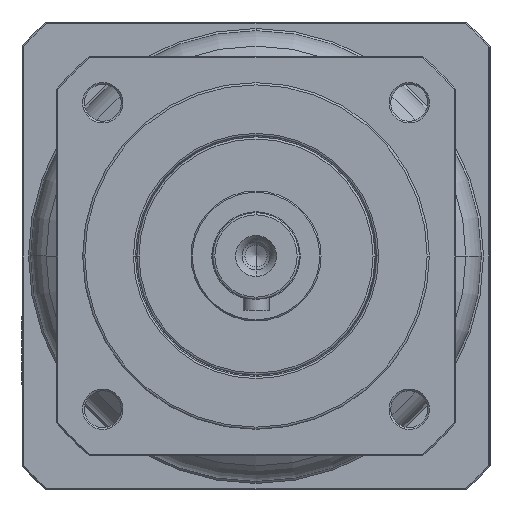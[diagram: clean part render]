
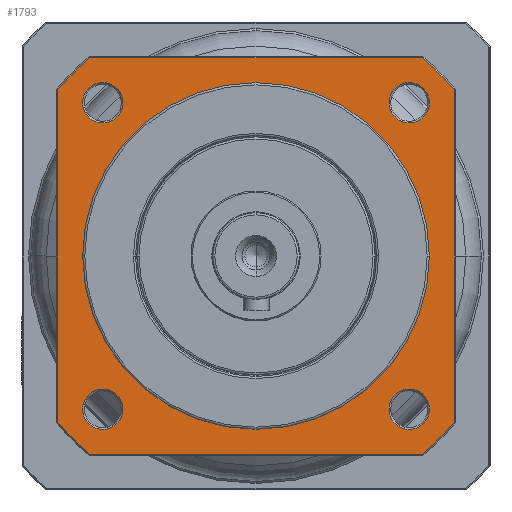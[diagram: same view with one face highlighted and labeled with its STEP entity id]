
A CAD part, left-side view. The second image highlights one B-rep face of the part: STEP entity #1793.
In plain terms, the highlighted planar face has unit normal (-1, 0, 0).
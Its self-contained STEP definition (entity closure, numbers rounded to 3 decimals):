
#310=CARTESIAN_POINT('',(3.,0.,0.));
#311=DIRECTION('',(-1.,0.,0.));
#312=DIRECTION('',(0.,1.,0.));
#313=AXIS2_PLACEMENT_3D('',#310,#311,#312);
#315=CARTESIAN_POINT('',(3.,0.,0.));
#316=DIRECTION('',(-1.,0.,0.));
#317=DIRECTION('',(0.,-1.,0.));
#318=AXIS2_PLACEMENT_3D('',#315,#316,#317);
#320=CARTESIAN_POINT('',(3.,35.355,35.355));
#321=DIRECTION('',(1.,0.,0.));
#322=DIRECTION('',(0.,1.,0.));
#323=AXIS2_PLACEMENT_3D('',#320,#321,#322);
#325=CARTESIAN_POINT('',(3.,35.355,35.355));
#326=DIRECTION('',(1.,0.,0.));
#327=DIRECTION('',(0.,-1.,0.));
#328=AXIS2_PLACEMENT_3D('',#325,#326,#327);
#330=CARTESIAN_POINT('',(3.,35.355,-35.355));
#331=DIRECTION('',(1.,0.,0.));
#332=DIRECTION('',(0.,0.,-1.));
#333=AXIS2_PLACEMENT_3D('',#330,#331,#332);
#335=CARTESIAN_POINT('',(3.,35.355,-35.355));
#336=DIRECTION('',(1.,0.,0.));
#337=DIRECTION('',(0.,0.,1.));
#338=AXIS2_PLACEMENT_3D('',#335,#336,#337);
#340=CARTESIAN_POINT('',(3.,-35.355,-35.355));
#341=DIRECTION('',(1.,0.,0.));
#342=DIRECTION('',(0.,-1.,0.));
#343=AXIS2_PLACEMENT_3D('',#340,#341,#342);
#345=CARTESIAN_POINT('',(3.,-35.355,-35.355));
#346=DIRECTION('',(1.,0.,0.));
#347=DIRECTION('',(0.,1.,0.));
#348=AXIS2_PLACEMENT_3D('',#345,#346,#347);
#350=CARTESIAN_POINT('',(3.,-35.355,35.355));
#351=DIRECTION('',(1.,0.,0.));
#352=DIRECTION('',(0.,0.,1.));
#353=AXIS2_PLACEMENT_3D('',#350,#351,#352);
#355=CARTESIAN_POINT('',(3.,-35.355,35.355));
#356=DIRECTION('',(1.,0.,0.));
#357=DIRECTION('',(0.,0.,-1.));
#358=AXIS2_PLACEMENT_3D('',#355,#356,#357);
#360=DIRECTION('',(0.,1.,0.));
#361=VECTOR('',#360,76.827);
#362=CARTESIAN_POINT('',(3.,-38.414,45.7));
#363=LINE('',#362,#361);
#364=CARTESIAN_POINT('',(3.,0.,0.));
#365=DIRECTION('',(-1.,0.,0.));
#366=DIRECTION('',(0.,-0.765,0.643));
#367=AXIS2_PLACEMENT_3D('',#364,#365,#366);
#369=DIRECTION('',(0.,0.,1.));
#370=VECTOR('',#369,76.827);
#371=CARTESIAN_POINT('',(3.,-45.7,-38.414));
#372=LINE('',#371,#370);
#373=CARTESIAN_POINT('',(3.,0.,0.));
#374=DIRECTION('',(-1.,0.,0.));
#375=DIRECTION('',(0.,-0.643,-0.765));
#376=AXIS2_PLACEMENT_3D('',#373,#374,#375);
#378=DIRECTION('',(0.,-1.,0.));
#379=VECTOR('',#378,76.827);
#380=CARTESIAN_POINT('',(3.,38.414,-45.7));
#381=LINE('',#380,#379);
#382=CARTESIAN_POINT('',(3.,0.,0.));
#383=DIRECTION('',(-1.,0.,0.));
#384=DIRECTION('',(0.,0.765,-0.643));
#385=AXIS2_PLACEMENT_3D('',#382,#383,#384);
#387=DIRECTION('',(0.,0.,-1.));
#388=VECTOR('',#387,76.827);
#389=CARTESIAN_POINT('',(3.,45.7,38.414));
#390=LINE('',#389,#388);
#391=CARTESIAN_POINT('',(3.,0.,0.));
#392=DIRECTION('',(-1.,0.,0.));
#393=DIRECTION('',(0.,0.643,0.765));
#394=AXIS2_PLACEMENT_3D('',#391,#392,#393);
#865=CARTESIAN_POINT('',(3.,38.414,45.7));
#872=CARTESIAN_POINT('',(3.,-38.414,45.7));
#879=CARTESIAN_POINT('',(3.,-45.7,38.414));
#966=CARTESIAN_POINT('',(3.,45.7,38.414));
#973=CARTESIAN_POINT('',(3.,45.7,-38.414));
#1034=CARTESIAN_POINT('',(3.,-45.7,
-38.414));
#1177=CARTESIAN_POINT('',(3.,40.005,35.355));
#1178=CARTESIAN_POINT('',(3.,30.705,35.355));
#1179=VERTEX_POINT('',#1177);
#1180=VERTEX_POINT('',#1178);
#1185=CARTESIAN_POINT('',(3.,35.355,-40.005));
#1186=CARTESIAN_POINT('',(3.,35.355,-30.705));
#1187=VERTEX_POINT('',#1185);
#1188=VERTEX_POINT('',#1186);
#1193=CARTESIAN_POINT('',(3.,-40.005,
-35.355));
#1194=CARTESIAN_POINT('',(3.,-30.705,
-35.355));
#1195=VERTEX_POINT('',#1193);
#1196=VERTEX_POINT('',#1194);
#1201=CARTESIAN_POINT('',(3.,-35.355,40.005));
#1202=CARTESIAN_POINT('',(3.,-35.355,30.705));
#1203=VERTEX_POINT('',#1201);
#1204=VERTEX_POINT('',#1202);
#1242=VERTEX_POINT('',#879);
#1244=VERTEX_POINT('',#1034);
#1246=VERTEX_POINT('',#973);
#1248=VERTEX_POINT('',#966);
#1250=VERTEX_POINT('',#872);
#1252=VERTEX_POINT('',#865);
#1289=CARTESIAN_POINT('',(3.,38.413,-45.7));
#1290=VERTEX_POINT('',#1289);
#1291=CARTESIAN_POINT('',(3.,-38.414,
-45.7));
#1292=VERTEX_POINT('',#1291);
#1343=CARTESIAN_POINT('',(3.,40.,0.));
#1344=CARTESIAN_POINT('',(3.,-40.,0.));
#1345=VERTEX_POINT('',#1343);
#1346=VERTEX_POINT('',#1344);
#1741=CARTESIAN_POINT('',(3.,0.,0.));
#1742=DIRECTION('',(-1.,0.,0.));
#1743=DIRECTION('',(0.,1.,0.));
#1744=AXIS2_PLACEMENT_3D('',#1741,#1742,#1743);
#1745=PLANE('',#1744);
#1747=ORIENTED_EDGE('',*,*,#1746,.F.);
#1749=ORIENTED_EDGE('',*,*,#1748,.F.);
#1751=ORIENTED_EDGE('',*,*,#1750,.F.);
#1753=ORIENTED_EDGE('',*,*,#1752,.F.);
#1755=ORIENTED_EDGE('',*,*,#1754,.F.);
#1757=ORIENTED_EDGE('',*,*,#1756,.F.);
#1759=ORIENTED_EDGE('',*,*,#1758,.F.);
#1761=ORIENTED_EDGE('',*,*,#1760,.F.);
#1762=EDGE_LOOP('',(#1747,#1749,#1751,#1753,#1755,#1757,#1759,#1761));
#1763=FACE_OUTER_BOUND('',#1762,.F.);
#1765=ORIENTED_EDGE('',*,*,#1764,.T.);
#1767=ORIENTED_EDGE('',*,*,#1766,.T.);
#1768=EDGE_LOOP('',(#1765,#1767));
#1769=FACE_BOUND('',#1768,.F.);
#1771=ORIENTED_EDGE('',*,*,#1770,.F.);
#1772=ORIENTED_EDGE('',*,*,#1731,.F.);
#1773=EDGE_LOOP('',(#1771,#1772));
#1774=FACE_BOUND('',#1773,.F.);
#1776=ORIENTED_EDGE('',*,*,#1775,.F.);
#1778=ORIENTED_EDGE('',*,*,#1777,.F.);
#1779=EDGE_LOOP('',(#1776,#1778));
#1780=FACE_BOUND('',#1779,.F.);
#1782=ORIENTED_EDGE('',*,*,#1781,.F.);
#1784=ORIENTED_EDGE('',*,*,#1783,.F.);
#1785=EDGE_LOOP('',(#1782,#1784));
#1786=FACE_BOUND('',#1785,.F.);
#1788=ORIENTED_EDGE('',*,*,#1787,.F.);
#1790=ORIENTED_EDGE('',*,*,#1789,.F.);
#1791=EDGE_LOOP('',(#1788,#1790));
#1792=FACE_BOUND('',#1791,.F.);
#1793=ADVANCED_FACE('',(#1763,#1769,#1774,#1780,#1786,#1792),#1745,.T.);
#314=CIRCLE('',#313,40.);
#319=CIRCLE('',#318,40.);
#324=CIRCLE('',#323,4.65);
#329=CIRCLE('',#328,4.65);
#334=CIRCLE('',#333,4.65);
#339=CIRCLE('',#338,4.65);
#344=CIRCLE('',#343,4.65);
#349=CIRCLE('',#348,4.65);
#354=CIRCLE('',#353,4.65);
#359=CIRCLE('',#358,4.65);
#368=CIRCLE('',#367,59.7);
#377=CIRCLE('',#376,59.7);
#386=CIRCLE('',#385,59.7);
#395=CIRCLE('',#394,59.7);
#1731=EDGE_CURVE('',#1180,#1179,#329,.T.);
#1746=EDGE_CURVE('',#1250,#1252,#363,.T.);
#1748=EDGE_CURVE('',#1242,#1250,#368,.T.);
#1750=EDGE_CURVE('',#1244,#1242,#372,.T.);
#1752=EDGE_CURVE('',#1292,#1244,#377,.T.);
#1754=EDGE_CURVE('',#1290,#1292,#381,.T.);
#1756=EDGE_CURVE('',#1246,#1290,#386,.T.);
#1758=EDGE_CURVE('',#1248,#1246,#390,.T.);
#1760=EDGE_CURVE('',#1252,#1248,#395,.T.);
#1764=EDGE_CURVE('',#1345,#1346,#314,.T.);
#1766=EDGE_CURVE('',#1346,#1345,#319,.T.);
#1770=EDGE_CURVE('',#1179,#1180,#324,.T.);
#1775=EDGE_CURVE('',#1187,#1188,#334,.T.);
#1777=EDGE_CURVE('',#1188,#1187,#339,.T.);
#1781=EDGE_CURVE('',#1195,#1196,#344,.T.);
#1783=EDGE_CURVE('',#1196,#1195,#349,.T.);
#1787=EDGE_CURVE('',#1203,#1204,#354,.T.);
#1789=EDGE_CURVE('',#1204,#1203,#359,.T.);
